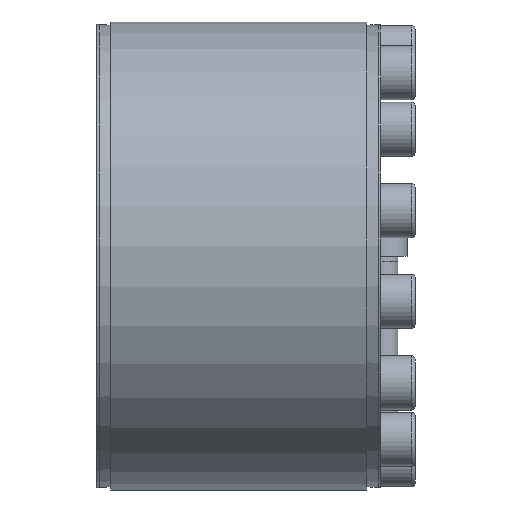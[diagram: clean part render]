
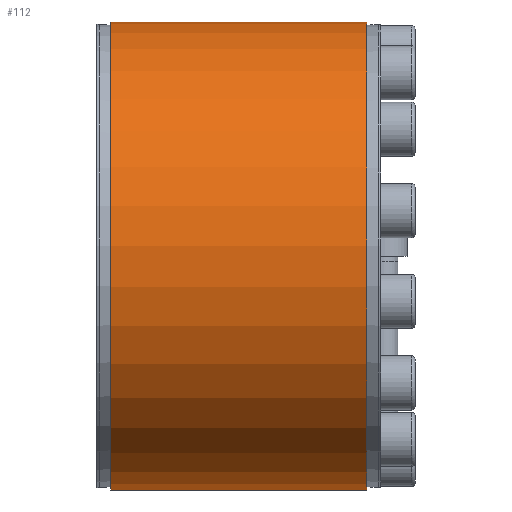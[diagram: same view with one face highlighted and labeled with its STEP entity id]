
A CAD part, left-side view. The second image highlights one B-rep face of the part: STEP entity #112.
In plain terms, the highlighted cylindrical face has radius 95 mm (diameter 190 mm), a partial arc.
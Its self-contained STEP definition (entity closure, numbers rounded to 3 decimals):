
#112 = ADVANCED_FACE( '', ( #281 ), #282, .T. );
#281 = FACE_OUTER_BOUND( '', #635, .T. );
#282 = CYLINDRICAL_SURFACE( '', #636, 95. );
#635 = EDGE_LOOP( '', ( #1026, #1027, #1028, #1029 ) );
#636 = AXIS2_PLACEMENT_3D( '', #1030, #1031, #1032 );
#1026 = ORIENTED_EDGE( '', *, *, #1599, .F. );
#1027 = ORIENTED_EDGE( '', *, *, #1600, .T. );
#1028 = ORIENTED_EDGE( '', *, *, #1601, .F. );
#1029 = ORIENTED_EDGE( '', *, *, #1602, .F. );
#1030 = CARTESIAN_POINT( '', ( 0., -60., 0. ) );
#1031 = DIRECTION( '', ( 0., 1., 0. ) );
#1032 = DIRECTION( '', ( 0., 0., -1. ) );
#1599 = EDGE_CURVE( '', #1868, #1869, #1870, .T. );
#1600 = EDGE_CURVE( '', #1868, #1871, #1872, .T. );
#1601 = EDGE_CURVE( '', #1873, #1871, #1874, .F. );
#1602 = EDGE_CURVE( '', #1869, #1873, #1875, .T. );
#1868 = VERTEX_POINT( '', #2333 );
#1869 = VERTEX_POINT( '', #2334 );
#1870 = LINE( '', #2335, #2336 );
#1871 = VERTEX_POINT( '', #2337 );
#1872 = CIRCLE( '', #2338, 95. );
#1873 = VERTEX_POINT( '', #2339 );
#1874 = LINE( '', #2340, #2341 );
#1875 = CIRCLE( '', #2342, 95. );
#2333 = CARTESIAN_POINT( '', ( 19.674, 109.5, 92.94 ) );
#2334 = CARTESIAN_POINT( '', ( 19.674, 5.5, 92.94 ) );
#2335 = CARTESIAN_POINT( '', ( 19.674, -60., 92.94 ) );
#2336 = VECTOR( '', #2743, 1000. );
#2337 = CARTESIAN_POINT( '', ( 22.599, 109.5, 92.273 ) );
#2338 = AXIS2_PLACEMENT_3D( '', #2744, #2745, #2746 );
#2339 = CARTESIAN_POINT( '', ( 22.599, 5.5, 92.273 ) );
#2340 = CARTESIAN_POINT( '', ( 22.599, -60., 92.273 ) );
#2341 = VECTOR( '', #2747, 1000. );
#2342 = AXIS2_PLACEMENT_3D( '', #2748, #2749, #2750 );
#2743 = DIRECTION( '', ( 0., -1., 0. ) );
#2744 = CARTESIAN_POINT( '', ( 0., 109.5, 0. ) );
#2745 = DIRECTION( '', ( 0., -1., 0. ) );
#2746 = DIRECTION( '', ( 0., 0., -1. ) );
#2747 = DIRECTION( '', ( 0., -1., 0. ) );
#2748 = CARTESIAN_POINT( '', ( 0., 5.5, 0. ) );
#2749 = DIRECTION( '', ( 0., -1., 0. ) );
#2750 = DIRECTION( '', ( 0., 0., -1. ) );
